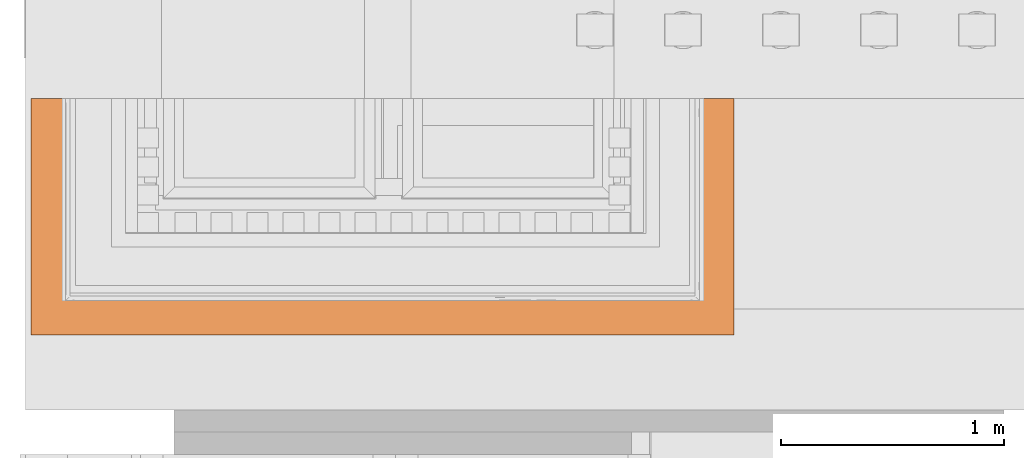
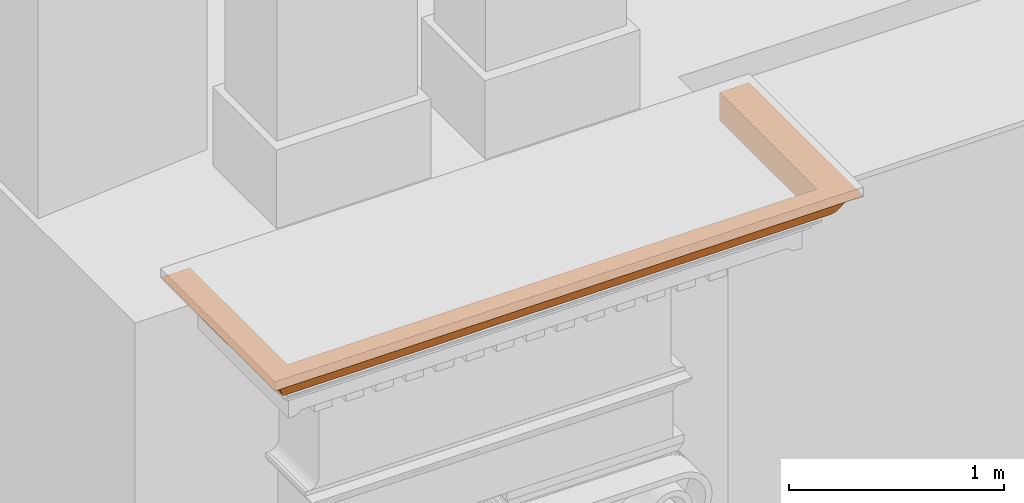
# One storey, part 22 of 44: 1 proxy.
"""IFC2X3 building model written with IfcOpenShell, lengths in metres."""

from ifc_helpers import new_model, entity, si_unit, converted_unit, derived_unit, direction, frame, origin, place, context, subcontext, project, spatial, faceted_brep, material, element, save


model = new_model("IFC2X3")

# Units and contexts
model_context = context("Model", 3, precision=1e-05, world=origin(), true_north=direction((6.12303176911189e-17, 1.0)))
body_context = subcontext(model_context, "Body", "Model", "MODEL_VIEW")
ifc_project = project(units=[si_unit("LENGTHUNIT", "METRE"), si_unit("AREAUNIT", "SQUARE_METRE"), si_unit("VOLUMEUNIT", "CUBIC_METRE"), converted_unit("PLANEANGLEUNIT", "DEGREE", entity("IfcRatioMeasure", 0.0174532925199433), si_unit("PLANEANGLEUNIT", "RADIAN"), dimensions=[0, 0, 0, 0, 0, 0, 0]), si_unit("MASSUNIT", "GRAM", prefix="KILO"), derived_unit("MASSDENSITYUNIT", [(si_unit("MASSUNIT", "GRAM", prefix="KILO"), 1), (si_unit("LENGTHUNIT", "METRE"), -3)]), si_unit("TIMEUNIT", "SECOND"), si_unit("FREQUENCYUNIT", "HERTZ"), si_unit("THERMODYNAMICTEMPERATUREUNIT", "DEGREE_CELSIUS"), derived_unit("THERMALTRANSMITTANCEUNIT", [(si_unit("MASSUNIT", "GRAM", prefix="KILO"), 1), (si_unit("THERMODYNAMICTEMPERATUREUNIT", "KELVIN"), -1), (si_unit("TIMEUNIT", "SECOND"), -3)]), derived_unit("VOLUMETRICFLOWRATEUNIT", [(si_unit("LENGTHUNIT", "METRE"), 3), (si_unit("TIMEUNIT", "SECOND"), -1)]), si_unit("ELECTRICCURRENTUNIT", "AMPERE"), si_unit("ELECTRICVOLTAGEUNIT", "VOLT"), si_unit("POWERUNIT", "WATT"), si_unit("FORCEUNIT", "NEWTON", prefix="KILO"), si_unit("ILLUMINANCEUNIT", "LUX"), si_unit("LUMINOUSFLUXUNIT", "LUMEN"), si_unit("LUMINOUSINTENSITYUNIT", "CANDELA"), derived_unit("USERDEFINED", [(si_unit("MASSUNIT", "GRAM", prefix="KILO"), -1), (si_unit("LENGTHUNIT", "METRE"), -2), (si_unit("TIMEUNIT", "SECOND"), 3), (si_unit("LUMINOUSFLUXUNIT", "LUMEN"), 1)]), derived_unit("LINEARVELOCITYUNIT", [(si_unit("LENGTHUNIT", "METRE"), 1), (si_unit("TIMEUNIT", "SECOND"), -1)]), si_unit("PRESSUREUNIT", "PASCAL"), derived_unit("USERDEFINED", [(si_unit("LENGTHUNIT", "METRE"), -2), (si_unit("MASSUNIT", "GRAM", prefix="KILO"), 1), (si_unit("TIMEUNIT", "SECOND"), -2)])], contexts=[model_context])

# Site, building, storey
site_placement = place(None, origin())
site = spatial("IfcSite", under=ifc_project, at=site_placement, Name="Default", CompositionType="ELEMENT")
building_placement = place(site_placement, origin())
building = spatial("IfcBuilding", under=site, at=building_placement, CompositionType="ELEMENT")
storey_placement = place(building_placement, origin())
storey = spatial("IfcBuildingStorey", under=building, at=storey_placement, Name="Livello 1", CompositionType="ELEMENT", Elevation=0.0)

# Proxy
ifc_material = material(Name="Piperno")
proxy_placement = place(storey_placement, frame((-12.09967105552, 0.199923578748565, 23.0814641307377)))
element("IfcBuildingElementProxy", 1, at=proxy_placement, inside=storey, material=ifc_material, Name="Stratigrafia", context=body_context, shape_type="Brep", body=[
    faceted_brep([(3.10878828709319, 1.06344915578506, 0.128281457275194), (3.09116497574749, 1.06344915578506, 0.104660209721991), (3.0791774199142, 1.06344915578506, 0.077737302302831), (3.06637888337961, 1.06344915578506, 0.0523672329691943), (3.04812803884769, 1.06344915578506, 0.030587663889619), (3.02538822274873, 1.06344915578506, 0.0135481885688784), (3.01265471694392, 1.06344915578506, 0.00687805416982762), (2.99928590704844, 1.06344915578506, 0.00159527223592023), (2.99928590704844, 1.06344915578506, 0.161197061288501), (3.1572452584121, 1.06344915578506, 0.161197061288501), (3.13118170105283, 1.06344915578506, 0.147440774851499), (0.159554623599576, 1.06344915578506, 0.161197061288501), (0.159554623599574, 1.06344915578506, 0.00159527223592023), (0.146185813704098, 1.06344915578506, 0.00687805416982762), (0.133452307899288, 1.06344915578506, 0.0135481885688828), (0.110712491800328, 1.06344915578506, 0.030587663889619), (0.0924616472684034, 1.06344915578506, 0.0523672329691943), (0.0796631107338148, 1.06344915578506, 0.0777373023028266), (0.0676755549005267, 1.06344915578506, 0.104660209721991), (0.050052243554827, 1.06344915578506, 0.128281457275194), (0.0276588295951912, 1.06344915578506, 0.147440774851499), (0.0015952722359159, 1.06344915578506, 0.161197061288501), (2.99928590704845, 0.961867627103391, 0.0015952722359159), (2.99928590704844, 0.860286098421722, 0.00159527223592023), (2.99928590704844, 0.735894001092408, 0.00159527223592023), (2.99928590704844, 0.611501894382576, 0.0015952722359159), (2.99928590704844, 0.498515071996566, 0.0015952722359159), (2.99928590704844, 0.385528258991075, 0.0015952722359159), (2.99928590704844, 0.261136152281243, 0.0015952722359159), (2.99928590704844, 0.159554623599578, 0.00159527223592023), (2.99928590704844, 0.159554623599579, 0.161197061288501), (0.0015952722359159, 0.404239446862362, 0.161197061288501), (0.0015952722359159, 0.00159527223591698, 0.161197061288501), (0.806883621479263, 0.00159527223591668, 0.161197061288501), (1.54666855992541, 0.00159527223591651, 0.161197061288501), (2.35195690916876, 0.00159527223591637, 0.161197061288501), (3.1572452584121, 0.00159527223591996, 0.161197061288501), (3.1572452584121, 0.40423944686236, 0.161197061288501), (0.159554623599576, 0.159554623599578, 0.161197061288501), (3.11945257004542, 0.556750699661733, 0.13848341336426), (3.13118170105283, 0.0276588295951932, 0.147440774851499), (3.10878828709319, 0.0500522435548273, 0.128281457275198), (3.09847260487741, 0.56556235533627, 0.11581167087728), (3.09116497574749, 0.0676755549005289, 0.104660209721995), (3.0791774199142, 0.660804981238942, 0.0777373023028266), (3.0791774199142, 0.0796631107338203, 0.077737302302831), (3.0791774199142, 0.467984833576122, 0.077737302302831), (3.0791774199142, 0.675127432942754, 0.077737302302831), (3.05788100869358, 0.587080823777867, 0.0409515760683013), (3.04812803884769, 0.11071249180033, 0.030587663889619), (3.02538822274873, 0.32761316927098, 0.0135481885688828), (3.06637888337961, 0.0924616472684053, 0.0523672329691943), (3.02538822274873, 0.675127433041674, 0.0135481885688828), (3.02538822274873, 0.801613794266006, 0.0135481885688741), (3.02538822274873, 0.961867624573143, 0.0135481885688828), (3.02538822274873, 0.133452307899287, 0.0135481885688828), (3.02538822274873, 0.235033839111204, 0.0135481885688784), (3.02538822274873, 0.33661537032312, 0.0135481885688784), (3.02538822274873, 0.438196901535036, 0.0135481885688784), (3.02538822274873, 0.539778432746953, 0.0135481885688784), (3.02538822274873, 0.670696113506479, 0.0135481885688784), (3.01265471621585, 0.911076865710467, 0.00687805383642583), (3.01265471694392, 0.1461858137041, 0.00687805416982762), (3.01326905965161, 0.285824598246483, 0.00716123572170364), (3.01376195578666, 0.397403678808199, 0.0073911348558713), (3.01152963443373, 0.800300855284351, 0.00636904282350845), (3.01179903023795, 0.664215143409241, 0.00648979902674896), (3.01172922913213, 0.555008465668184, 0.00645844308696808), (2.82180273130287, 0.159554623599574, 0.00159527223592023), (2.64431949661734, 0.159554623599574, 0.00159527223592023), (2.4668362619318, 0.159554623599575, 0.00159527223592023), (2.28935308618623, 0.159554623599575, 0.00159527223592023), (2.11186991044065, 0.159554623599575, 0.00159527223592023), (1.93438667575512, 0.159554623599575, 0.0015952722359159), (1.84564508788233, 0.159554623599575, 0.0015952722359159), (1.75690344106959, 0.159554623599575, 0.0015952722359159), (1.57942026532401, 0.159554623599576, 0.0015952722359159), (1.40193708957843, 0.159554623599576, 0.0015952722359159), (1.2244538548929, 0.159554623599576, 0.0015952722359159), (1.04697062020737, 0.159554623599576, 0.0015952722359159), (0.86948744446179, 0.159554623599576, 0.0015952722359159), (0.692004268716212, 0.159554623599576, 0.0015952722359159), (0.514521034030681, 0.159554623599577, 0.0015952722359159), (0.337037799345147, 0.159554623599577, 0.0015952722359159), (0.159554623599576, 0.159554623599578, 0.00159527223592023), (2.54398234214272, 0.0383379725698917, 0.139372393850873), (2.67842556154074, 0.0590445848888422, 0.117594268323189), (0.0276588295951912, 0.0276588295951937, 0.147440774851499), (1.06047702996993, 0.058383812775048, 0.118461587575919), (0.884951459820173, 0.079663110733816, 0.077737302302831), (1.62044143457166, 0.0655563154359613, 0.108153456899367), (0.646988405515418, 0.0382791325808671, 0.139421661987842), (0.050052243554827, 0.050052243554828, 0.128281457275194), (1.83491819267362, 0.0336046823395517, 0.143157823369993), (1.24127117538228, 0.0361180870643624, 0.141191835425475), (2.18151101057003, 0.0584789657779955, 0.118337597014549), (2.38470861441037, 0.0796631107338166, 0.0777373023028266), (2.69084867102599, 0.0796631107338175, 0.0777373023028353), (0.0676755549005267, 0.0676755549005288, 0.104660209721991), (0.079663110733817, 0.0796631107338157, 0.077737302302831), (0.467982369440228, 0.0796631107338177, 0.077737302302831), (0.856301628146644, 0.0796631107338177, 0.077737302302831), (0.525116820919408, 0.0589939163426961, 0.117661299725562), (1.21785857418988, 0.0796631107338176, 0.077737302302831), (1.57941552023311, 0.0796631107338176, 0.077737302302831), (1.69023980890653, 0.0796631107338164, 0.0777373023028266), (1.94097246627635, 0.0796631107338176, 0.077737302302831), (2.30252941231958, 0.0796631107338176, 0.077737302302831), (1.57226839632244, 0.0496536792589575, 0.128705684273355), (0.406256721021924, 0.109794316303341, 0.0314661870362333), (0.133452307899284, 0.133452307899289, 0.0135481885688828), (0.235033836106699, 0.133452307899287, 0.0135481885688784), (0.336615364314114, 0.133452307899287, 0.0135481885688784), (0.438196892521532, 0.133452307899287, 0.0135481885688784), (0.521765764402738, 0.133452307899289, 0.0135481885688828), (1.94097711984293, 0.0971343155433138, 0.0457536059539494), (2.23233215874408, 0.0991875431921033, 0.0431153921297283), (2.44290563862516, 0.116842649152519, 0.0251557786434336), (2.24873751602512, 0.133452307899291, 0.0135481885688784), (2.31431752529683, 0.133452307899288, 0.0135481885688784), (2.41589905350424, 0.133452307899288, 0.0135481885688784), (2.51748058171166, 0.133452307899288, 0.0135481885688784), (2.61906210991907, 0.133452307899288, 0.0135481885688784), (2.63706286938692, 0.133452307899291, 0.0135481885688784), (0.679859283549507, 0.116417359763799, 0.0255097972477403), (0.632215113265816, 0.0996134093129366, 0.0425861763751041), (0.0924616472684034, 0.0924616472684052, 0.0523672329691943), (2.52662541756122, 0.0996134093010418, 0.0425861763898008), (2.74934620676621, 0.115059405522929, 0.0266620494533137), (2.10165541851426, 0.113498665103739, 0.0280287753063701), (0.110712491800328, 0.11071249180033, 0.030587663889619), (1.62359484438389, 0.0973013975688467, 0.045533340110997), (1.32404226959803, 0.102530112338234, 0.0391140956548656), (1.38462186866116, 0.0884912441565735, 0.0588181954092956), (1.03708498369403, 0.0911158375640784, 0.0544562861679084), (0.965816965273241, 0.109740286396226, 0.0315184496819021), (1.7629589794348, 0.112471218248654, 0.0289541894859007), (0.910091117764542, 0.133452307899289, 0.0135481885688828), (1.96773372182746, 0.13345230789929, 0.0135481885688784), (1.29841647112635, 0.13345230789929, 0.0135481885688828), (2.72064363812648, 0.133452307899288, 0.0135481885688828), (2.8222251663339, 0.133452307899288, 0.0135481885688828), (2.92380669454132, 0.133452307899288, 0.0135481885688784), (1.40008377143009, 0.133452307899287, 0.0135481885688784), (1.5016652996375, 0.133452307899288, 0.0135481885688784), (1.60324682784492, 0.133452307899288, 0.0135481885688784), (1.6867299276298, 0.13345230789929, 0.0135481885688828), (1.70482835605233, 0.133452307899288, 0.0135481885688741), (1.80640988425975, 0.133452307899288, 0.0135481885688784), (1.90799141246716, 0.133452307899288, 0.0135481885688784), (2.00957294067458, 0.133452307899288, 0.0135481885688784), (2.11115446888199, 0.133452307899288, 0.0135481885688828), (2.21273599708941, 0.133452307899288, 0.0135481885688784), (0.539778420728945, 0.133452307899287, 0.0135481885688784), (0.64135994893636, 0.133452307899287, 0.0135481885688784), (0.742941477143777, 0.133452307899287, 0.0135481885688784), (0.844523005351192, 0.133452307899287, 0.0135481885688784), (0.946104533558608, 0.133452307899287, 0.0135481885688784), (1.05959934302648, 0.133452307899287, 0.0135481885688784), (1.17309415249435, 0.133452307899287, 0.0135481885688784), (1.28658896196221, 0.133452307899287, 0.0135481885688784), (0.517536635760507, 0.1460342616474, 0.00694756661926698), (0.413981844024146, 0.146165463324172, 0.00688737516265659), (1.3328869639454, 0.147006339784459, 0.00650561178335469), (0.812679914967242, 0.145675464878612, 0.00711303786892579), (0.692150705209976, 0.145381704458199, 0.00724946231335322), (1.80127424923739, 0.146792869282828, 0.00660187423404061), (1.67301016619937, 0.146864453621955, 0.00656954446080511), (0.285824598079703, 0.146199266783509, 0.00687189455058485), (2.87301593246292, 0.146199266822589, 0.00687189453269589), (0.146185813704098, 0.1461858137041, 0.00687805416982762), (1.11634673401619, 0.146683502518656, 0.00665136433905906), (2.74485868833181, 0.146165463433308, 0.00688737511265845), (2.64130389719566, 0.146034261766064, 0.00694756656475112), (2.23616118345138, 0.146898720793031, 0.0065540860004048), (1.01936295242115, 0.144585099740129, 0.00762372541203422), (1.22468053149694, 0.145356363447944, 0.00726127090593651), (2.06036368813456, 0.1462086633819, 0.00686759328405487), (2.46668982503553, 0.145381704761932, 0.0072494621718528), (2.34616061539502, 0.145675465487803, 0.00711303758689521), (1.94895624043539, 0.145107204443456, 0.00737771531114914), (1.56755259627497, 0.145832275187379, 0.00704056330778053), (1.45087451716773, 0.146128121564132, 0.00690448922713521), (0.922679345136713, 0.146898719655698, 0.00655408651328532), (0.159554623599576, 0.261136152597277, 0.0015952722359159), (0.159554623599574, 0.385528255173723, 0.00159527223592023), (0.159554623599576, 0.498515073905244, 0.0015952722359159), (0.159554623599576, 0.611501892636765, 0.0015952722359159), (0.159554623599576, 0.735893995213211, 0.0015952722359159), (0.159554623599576, 0.860286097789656, 0.0015952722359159), (0.159554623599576, 0.961867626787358, 0.0015952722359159), (0.0393879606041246, 0.55675069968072, 0.138483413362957), (0.0603679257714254, 0.565562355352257, 0.115811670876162), (0.0796631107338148, 0.675127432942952, 0.077737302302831), (0.0796631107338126, 0.660804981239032, 0.077737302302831), (0.0796631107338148, 0.467984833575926, 0.077737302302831), (0.0997497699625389, 0.577955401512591, 0.042417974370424), (0.116592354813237, 0.501370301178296, 0.0253637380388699), (0.133452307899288, 0.675127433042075, 0.0135481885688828), (0.133452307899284, 0.670696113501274, 0.0135481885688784), (0.133452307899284, 0.539778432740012, 0.0135481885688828), (0.133452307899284, 0.43819690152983, 0.0135481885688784), (0.133452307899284, 0.336615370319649, 0.0135481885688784), (0.133452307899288, 0.327613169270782, 0.0135481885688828), (0.111100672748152, 0.77476859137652, 0.0302216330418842), (0.133452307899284, 0.961867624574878, 0.0135481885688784), (0.133452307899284, 0.801613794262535, 0.0135481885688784), (0.133452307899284, 0.235033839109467, 0.0135481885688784), (0.14711130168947, 0.555008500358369, 0.00645844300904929), (0.147041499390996, 0.664215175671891, 0.00648979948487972), (0.14618581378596, 0.911076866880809, 0.00687805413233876), (0.14507857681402, 0.397403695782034, 0.00739113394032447), (0.145571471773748, 0.285824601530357, 0.00716123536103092), (0.14731089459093, 0.800300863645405, 0.00636904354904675)], [[[0, 1, 2, 3, 4, 5, 6, 7, 8, 9, 10]], [[11, 12, 13, 14, 15, 16, 17, 18, 19, 20, 21]], [[8, 7, 22, 23, 24, 25, 26, 27, 28, 29, 30]], [[11, 21, 31, 32, 33, 34, 35, 36, 37, 9, 8, 30, 38]], [[39, 37, 40]], [[10, 9, 37]], [[37, 36, 40]], [[0, 10, 39]], [[41, 39, 40]], [[42, 43, 44]], [[0, 42, 1]], [[43, 45, 46, 44]], [[1, 44, 47, 2]], [[39, 10, 37]], [[39, 41, 42]], [[1, 42, 44]], [[39, 42, 0]], [[42, 41, 43]], [[48, 47, 44, 46]], [[49, 50, 48]], [[48, 51, 49]], [[4, 52, 53, 54, 5]], [[49, 55, 56, 50]], [[51, 48, 46]], [[52, 4, 48]], [[4, 3, 48]], [[48, 50, 57, 58, 59, 60, 52]], [[3, 2, 47]], [[46, 45, 51]], [[3, 47, 48]], [[61, 6, 54, 53]], [[62, 63, 56]], [[63, 62, 28]], [[27, 64, 63]], [[61, 53, 65]], [[60, 66, 65]], [[67, 66, 60]], [[59, 58, 67, 60]], [[64, 57, 63]], [[6, 61, 23, 22]], [[67, 64, 26]], [[6, 5, 54]], [[56, 55, 62]], [[62, 29, 28]], [[22, 7, 6]], [[61, 65, 23]], [[63, 57, 50, 56]], [[27, 63, 28]], [[26, 25, 67]], [[67, 58, 64]], [[64, 27, 26]], [[67, 25, 66]], [[25, 24, 66]], [[66, 24, 65]], [[65, 53, 52, 60]], [[24, 23, 65]], [[58, 57, 64]], [[30, 29, 68, 69, 70, 71, 72, 73, 74, 75, 76, 77, 78, 79, 80, 81, 82, 83, 84, 38]], [[85, 86, 41]], [[35, 40, 36]], [[33, 32, 87]], [[88, 89, 90]], [[91, 87, 92]], [[93, 34, 94]], [[86, 95, 96]], [[85, 35, 93]], [[93, 35, 34]], [[43, 96, 97, 45]], [[98, 99, 100, 101, 89]], [[41, 40, 85]], [[41, 86, 43]], [[91, 33, 87]], [[96, 95, 90]], [[102, 98, 89]], [[98, 102, 92]], [[91, 102, 88]], [[34, 33, 94]], [[93, 95, 85]], [[90, 89, 103, 104, 105, 106, 107, 96]], [[85, 40, 35]], [[90, 95, 108]], [[88, 94, 91]], [[92, 102, 91]], [[88, 102, 89]], [[43, 86, 96]], [[95, 86, 85]], [[33, 91, 94]], [[93, 94, 108]], [[108, 94, 88]], [[93, 108, 95]], [[90, 108, 88]], [[109, 110, 111, 112, 113, 114]], [[115, 116, 107]], [[117, 118, 119, 120, 121, 122, 123]], [[109, 124, 125]], [[125, 100, 126]], [[127, 117, 128]], [[51, 45, 97]], [[99, 126, 100]], [[117, 129, 118]], [[130, 109, 126]], [[128, 51, 127]], [[131, 106, 105, 104]], [[51, 97, 127]], [[132, 133, 134]], [[125, 101, 100]], [[127, 97, 96, 107]], [[124, 109, 114]], [[132, 134, 135]], [[136, 131, 132]], [[49, 128, 55]], [[124, 137, 135]], [[136, 138, 129]], [[133, 104, 103]], [[132, 139, 136]], [[128, 117, 123]], [[129, 116, 115]], [[116, 117, 127]], [[129, 115, 136]], [[131, 136, 115]], [[135, 139, 132]], [[128, 123, 140, 141, 142, 55]], [[128, 49, 51]], [[131, 115, 106]], [[131, 133, 132]], [[101, 125, 134]], [[134, 103, 89, 101]], [[134, 125, 135]], [[124, 135, 125]], [[104, 133, 131]], [[134, 133, 103]], [[117, 116, 129]], [[107, 116, 127]], [[136, 139, 143, 144, 145, 146, 147, 148, 149, 138]], [[129, 138, 150, 151, 152, 118]], [[124, 114, 153, 154, 155, 156, 137]], [[126, 109, 125]], [[109, 130, 110]], [[115, 107, 106]], [[135, 137, 157, 158, 159, 160, 139]], [[161, 113, 162]], [[163, 143, 139, 160]], [[81, 164, 165]], [[166, 167, 75]], [[84, 83, 168]], [[29, 169, 68]], [[111, 170, 168]], [[79, 78, 171]], [[69, 172, 173]], [[152, 151, 174, 119, 118]], [[69, 173, 70]], [[81, 161, 82]], [[175, 79, 171]], [[161, 154, 153, 114, 113]], [[173, 140, 123, 122, 121]], [[176, 160, 159]], [[72, 174, 177]], [[172, 68, 169]], [[70, 178, 179]], [[168, 112, 111]], [[142, 141, 169]], [[168, 83, 162]], [[169, 141, 172]], [[112, 168, 162]], [[169, 29, 62]], [[111, 110, 170]], [[62, 55, 142]], [[84, 168, 170]], [[83, 82, 162]], [[69, 68, 172]], [[161, 162, 82]], [[62, 142, 169]], [[172, 141, 140]], [[113, 112, 162]], [[164, 155, 165]], [[165, 161, 81]], [[178, 121, 120]], [[155, 154, 165]], [[71, 70, 179]], [[157, 175, 158]], [[177, 180, 73]], [[71, 179, 174]], [[167, 181, 76]], [[182, 163, 77]], [[149, 166, 180]], [[144, 182, 181]], [[144, 143, 182]], [[76, 182, 77]], [[159, 171, 176]], [[163, 182, 143]], [[78, 77, 163]], [[161, 165, 154]], [[140, 173, 172]], [[164, 81, 80]], [[183, 164, 80]], [[183, 156, 164]], [[80, 79, 183]], [[158, 175, 171]], [[158, 171, 159]], [[183, 175, 157]], [[176, 171, 78]], [[78, 163, 176]], [[160, 176, 163]], [[183, 157, 137, 156]], [[156, 155, 164]], [[79, 175, 183]], [[121, 178, 173]], [[178, 120, 179]], [[173, 178, 70]], [[119, 174, 179]], [[150, 177, 151]], [[72, 71, 174]], [[151, 177, 174]], [[180, 177, 150]], [[73, 72, 177]], [[166, 149, 148, 147]], [[180, 74, 73]], [[180, 166, 74]], [[75, 74, 166]], [[166, 147, 167]], [[181, 167, 145]], [[76, 75, 167]], [[180, 150, 138, 149]], [[179, 120, 119]], [[144, 181, 145]], [[182, 76, 181]], [[167, 147, 146, 145]], [[38, 84, 184, 185, 186, 187, 188, 189, 190, 12, 11]], [[191, 87, 31]], [[87, 32, 31]], [[21, 20, 31]], [[31, 20, 191]], [[191, 20, 19]], [[192, 191, 19]], [[98, 92, 192]], [[18, 17, 193, 194]], [[98, 194, 195, 99]], [[87, 191, 92]], [[98, 192, 194]], [[192, 18, 194]], [[92, 191, 192]], [[18, 192, 19]], [[195, 196, 126]], [[197, 198, 199, 200, 201, 202, 203]], [[198, 197, 204]], [[196, 193, 16]], [[126, 99, 195]], [[193, 17, 16]], [[204, 197, 196]], [[197, 130, 196]], [[130, 197, 203]], [[204, 14, 205, 206, 198]], [[130, 126, 196]], [[204, 16, 15]], [[196, 195, 194, 193]], [[130, 203, 207, 110]], [[16, 204, 196]], [[204, 15, 14]], [[208, 209, 187]], [[189, 210, 13, 12, 190]], [[184, 84, 170]], [[208, 199, 209]], [[208, 201, 200, 199]], [[201, 208, 211]], [[212, 211, 185]], [[13, 210, 206, 205, 14]], [[170, 110, 207]], [[207, 212, 170]], [[212, 207, 203, 202]], [[184, 212, 185]], [[212, 202, 211]], [[170, 212, 184]], [[211, 208, 186]], [[186, 208, 187]], [[186, 185, 211]], [[210, 213, 206]], [[213, 209, 199]], [[210, 189, 213]], [[213, 199, 198, 206]], [[188, 187, 209]], [[189, 188, 213]], [[209, 213, 188]], [[211, 202, 201]]]),
])

save(model, "model.ifc")
